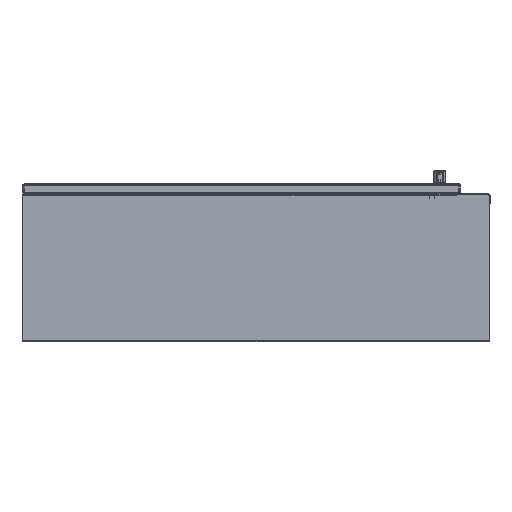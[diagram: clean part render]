
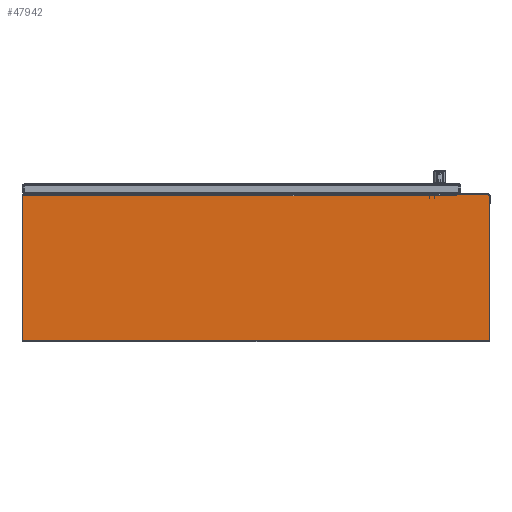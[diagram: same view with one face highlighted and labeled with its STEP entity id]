
A CAD part, front view. The second image highlights one B-rep face of the part: STEP entity #47942.
In plain terms, the highlighted planar face has unit normal (0, -1, 0) as drawn and (0, 0, 1) by its records, which use the part's own axes.
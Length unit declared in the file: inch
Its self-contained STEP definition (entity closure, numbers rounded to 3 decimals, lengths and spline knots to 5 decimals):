
#11563 = DIRECTION ( 'NONE',  ( 1., 0., 0. ) ) ;
#11574 = DIRECTION ( 'NONE',  ( 0., 0., 1. ) ) ;
#11760 = PLANE ( 'NONE',  #34981 ) ;
#12289 = CARTESIAN_POINT ( 'NONE',  ( -18.13, 0., 0.072 ) ) ;
#20498 = CARTESIAN_POINT ( 'NONE',  ( -18.13, 11.763, 0.072 ) ) ;
#20500 = CARTESIAN_POINT ( 'NONE',  ( 16.99, 11.763, 0.072 ) ) ;
#20515 = CARTESIAN_POINT ( 'NONE',  ( 16.99, 11.849, 0.072 ) ) ;
#20518 = CARTESIAN_POINT ( 'NONE',  ( -18.13, 0.102, 0.072 ) ) ;
#20519 = CARTESIAN_POINT ( 'NONE',  ( 19.668, 0.102, 0.072 ) ) ;
#20520 = CARTESIAN_POINT ( 'NONE',  ( 19.668, 11.747, 0.072 ) ) ;
#20522 = CARTESIAN_POINT ( 'NONE',  ( 19.566, 11.849, 0.072 ) ) ;
#20524 = CARTESIAN_POINT ( 'NONE',  ( -18.028, 0., 0.072 ) ) ;
#20525 = CARTESIAN_POINT ( 'NONE',  ( 19.566, 0., 0.072 ) ) ;
#21334 = VERTEX_POINT ( 'NONE', #20525 ) ;
#21335 = VERTEX_POINT ( 'NONE', #20524 ) ;
#21336 = VERTEX_POINT ( 'NONE', #20522 ) ;
#21337 = VERTEX_POINT ( 'NONE', #20520 ) ;
#21338 = VERTEX_POINT ( 'NONE', #20519 ) ;
#21339 = VERTEX_POINT ( 'NONE', #20518 ) ;
#21341 = VERTEX_POINT ( 'NONE', #20515 ) ;
#21355 = VERTEX_POINT ( 'NONE', #20500 ) ;
#21356 = VERTEX_POINT ( 'NONE', #20498 ) ;
#22301 = FACE_OUTER_BOUND ( 'NONE', #58462, .T. ) ;
#31122 = AXIS2_PLACEMENT_3D ( 'NONE', #70947, #70949, #70950 ) ;
#31123 = AXIS2_PLACEMENT_3D ( 'NONE', #70932, #70938, #70939 ) ;
#31126 = AXIS2_PLACEMENT_3D ( 'NONE', #70944, #70953, #70954 ) ;
#34981 = AXIS2_PLACEMENT_3D ( 'NONE', #12289, #11574, #11563 ) ;
#47942 = ADVANCED_FACE ( 'NONE', ( #22301 ), #11760, .T. ) ;
#53263 = ORIENTED_EDGE ( 'NONE', *, *, #78312, .T. ) ;
#53264 = ORIENTED_EDGE ( 'NONE', *, *, #78310, .T. ) ;
#53265 = ORIENTED_EDGE ( 'NONE', *, *, #78289, .F. ) ;
#53266 = ORIENTED_EDGE ( 'NONE', *, *, #78299, .T. ) ;
#53267 = ORIENTED_EDGE ( 'NONE', *, *, #78243, .T. ) ;
#53268 = ORIENTED_EDGE ( 'NONE', *, *, #78269, .T. ) ;
#53269 = ORIENTED_EDGE ( 'NONE', *, *, #78302, .T. ) ;
#53270 = ORIENTED_EDGE ( 'NONE', *, *, #78315, .T. ) ;
#53271 = ORIENTED_EDGE ( 'NONE', *, *, #78314, .T. ) ;
#58462 = EDGE_LOOP ( 'NONE', ( #53263, #53264, #53265, #53266, #53267, #53268, #53269, #53270, #53271 ) ) ;
#70848 = CARTESIAN_POINT ( 'NONE',  ( 16.99, 11.763, 0.072 ) ) ;
#70859 = DIRECTION ( 'NONE',  ( -1., 0., 0. ) ) ;
#70899 = CARTESIAN_POINT ( 'NONE',  ( -18.13, 11.925, 0.072 ) ) ;
#70900 = DIRECTION ( 'NONE',  ( 0., -1., 0. ) ) ;
#70924 = CARTESIAN_POINT ( 'NONE',  ( 19.668, 11.849, 0.072 ) ) ;
#70925 = DIRECTION ( 'NONE',  ( 1., 0., 0. ) ) ;
#70932 = CARTESIAN_POINT ( 'NONE',  ( -18.028, 0.102, 0.072 ) ) ;
#70934 = CARTESIAN_POINT ( 'NONE',  ( 16.99, 0., 0.072 ) ) ;
#70935 = DIRECTION ( 'NONE',  ( 0., -1., 0. ) ) ;
#70938 = DIRECTION ( 'NONE',  ( 0., 0., 1. ) ) ;
#70939 = DIRECTION ( 'NONE',  ( 1., 0., 0. ) ) ;
#70944 = CARTESIAN_POINT ( 'NONE',  ( 19.566, 0.102, 0.072 ) ) ;
#70947 = CARTESIAN_POINT ( 'NONE',  ( 19.566, 11.747, 0.072 ) ) ;
#70949 = DIRECTION ( 'NONE',  ( 0., 0., 1. ) ) ;
#70950 = DIRECTION ( 'NONE',  ( 1., 0., 0. ) ) ;
#70951 = CARTESIAN_POINT ( 'NONE',  ( 19.668, 11.925, 0.072 ) ) ;
#70952 = DIRECTION ( 'NONE',  ( 0., 1., 0. ) ) ;
#70953 = DIRECTION ( 'NONE',  ( 0., 0., 1. ) ) ;
#70954 = DIRECTION ( 'NONE',  ( 1., 0., 0. ) ) ;
#70955 = CARTESIAN_POINT ( 'NONE',  ( -18.13, 0., 0.072 ) ) ;
#70956 = DIRECTION ( 'NONE',  ( 1., 0., 0. ) ) ;
#71371 = LINE ( 'NONE', #70848, #71377 ) ;
#71377 = VECTOR ( 'NONE', #70859, 39.37008 ) ;
#71392 = LINE ( 'NONE', #70899, #71393 ) ;
#71393 = VECTOR ( 'NONE', #70900, 39.37008 ) ;
#71413 = LINE ( 'NONE', #70924, #71414 ) ;
#71414 = VECTOR ( 'NONE', #70925, 39.37008 ) ;
#71422 = VECTOR ( 'NONE', #70952, 39.37008 ) ;
#71423 = LINE ( 'NONE', #70934, #71424 ) ;
#71424 = VECTOR ( 'NONE', #70935, 39.37008 ) ;
#71427 = LINE ( 'NONE', #70951, #71422 ) ;
#71428 = CIRCLE ( 'NONE', #31123, 0.102 ) ;
#71434 = LINE ( 'NONE', #70955, #71435 ) ;
#71435 = VECTOR ( 'NONE', #70956, 39.37008 ) ;
#71436 = CIRCLE ( 'NONE', #31122, 0.102 ) ;
#71438 = CIRCLE ( 'NONE', #31126, 0.102 ) ;
#78243 = EDGE_CURVE ( 'NONE', #21355, #21356, #71371, .T. ) ;
#78269 = EDGE_CURVE ( 'NONE', #21356, #21339, #71392, .T. ) ;
#78289 = EDGE_CURVE ( 'NONE', #21341, #21336, #71413, .T. ) ;
#78299 = EDGE_CURVE ( 'NONE', #21341, #21355, #71423, .T. ) ;
#78302 = EDGE_CURVE ( 'NONE', #21339, #21335, #71428, .T. ) ;
#78310 = EDGE_CURVE ( 'NONE', #21337, #21336, #71436, .T. ) ;
#78312 = EDGE_CURVE ( 'NONE', #21338, #21337, #71427, .T. ) ;
#78314 = EDGE_CURVE ( 'NONE', #21334, #21338, #71438, .T. ) ;
#78315 = EDGE_CURVE ( 'NONE', #21335, #21334, #71434, .T. ) ;
